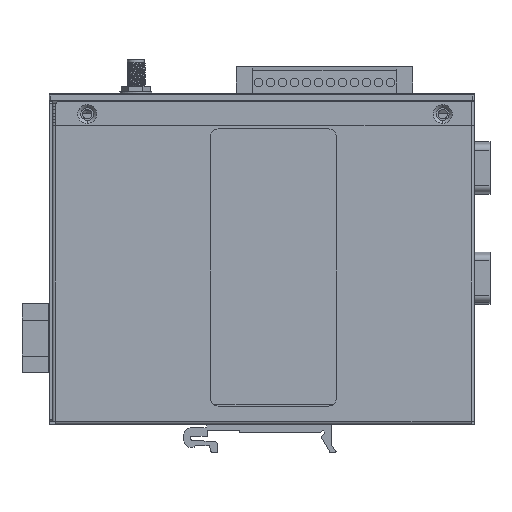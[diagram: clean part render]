
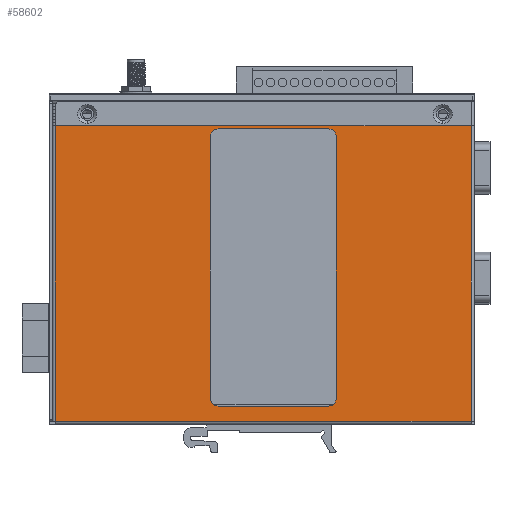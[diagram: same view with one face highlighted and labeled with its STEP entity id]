
A CAD part, front view. The second image highlights one B-rep face of the part: STEP entity #58602.
In plain terms, the highlighted planar face has unit normal (0, -1, 0).
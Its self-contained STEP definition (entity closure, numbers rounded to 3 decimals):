
#54850=DIRECTION('',(0.,0.,-1.));
#54851=VECTOR('',#54850,93.9);
#54852=CARTESIAN_POINT('',(-66.,-1.,42.45));
#54853=LINE('',#54852,#54851);
#54895=DIRECTION('',(-1.,0.,0.));
#54896=VECTOR('',#54895,131.9);
#54897=CARTESIAN_POINT('',(66.,-1.,42.45));
#54898=LINE('',#54897,#54896);
#55006=DIRECTION('',(0.,0.,1.));
#55007=VECTOR('',#55006,93.9);
#55008=CARTESIAN_POINT('',(66.,-1.,-51.45));
#55009=LINE('',#55008,#55007);
#55020=DIRECTION('',(1.,0.,0.));
#55021=VECTOR('',#55020,0.1);
#55022=CARTESIAN_POINT('',(-66.,-1.,42.45));
#55023=LINE('',#55022,#55021);
#55024=DIRECTION('',(0.,0.,-1.));
#55025=VECTOR('',#55024,83.);
#55026=CARTESIAN_POINT('',(23.18,-1.,38.9));
#55027=LINE('',#55026,#55025);
#55028=CARTESIAN_POINT('',(20.68,-1.,38.9));
#55029=DIRECTION('',(0.,-1.,0.));
#55030=DIRECTION('',(1.,0.,0.));
#55031=AXIS2_PLACEMENT_3D('',#55028,#55029,#55030);
#55033=DIRECTION('',(-1.,0.,0.));
#55034=VECTOR('',#55033,35.);
#55035=CARTESIAN_POINT('',(20.68,-1.,41.4));
#55036=LINE('',#55035,#55034);
#55037=CARTESIAN_POINT('',(-14.32,-1.,38.9));
#55038=DIRECTION('',(0.,-1.,0.));
#55039=DIRECTION('',(0.,0.,1.));
#55040=AXIS2_PLACEMENT_3D('',#55037,#55038,#55039);
#55042=DIRECTION('',(0.,0.,-1.));
#55043=VECTOR('',#55042,83.);
#55044=CARTESIAN_POINT('',(-16.82,-1.,38.9));
#55045=LINE('',#55044,#55043);
#55046=CARTESIAN_POINT('',(-14.32,-1.,-44.1));
#55047=DIRECTION('',(0.,-1.,0.));
#55048=DIRECTION('',(-1.,0.,0.));
#55049=AXIS2_PLACEMENT_3D('',#55046,#55047,#55048);
#55051=DIRECTION('',(-1.,0.,0.));
#55052=VECTOR('',#55051,35.);
#55053=CARTESIAN_POINT('',(20.68,-1.,-46.6));
#55054=LINE('',#55053,#55052);
#55055=CARTESIAN_POINT('',(20.68,-1.,-44.1));
#55056=DIRECTION('',(0.,-1.,0.));
#55057=DIRECTION('',(0.,0.,-1.));
#55058=AXIS2_PLACEMENT_3D('',#55055,#55056,#55057);
#55065=DIRECTION('',(1.,0.,0.));
#55066=VECTOR('',#55065,132.);
#55067=CARTESIAN_POINT('',(-66.,-1.,-51.45));
#55068=LINE('',#55067,#55066);
#55536=CARTESIAN_POINT('',(66.,-1.,-51.45));
#55537=VERTEX_POINT('',#55536);
#55538=CARTESIAN_POINT('',(66.,-1.,42.45));
#55539=VERTEX_POINT('',#55538);
#55545=CARTESIAN_POINT('',(-66.,-1.,42.45));
#55547=VERTEX_POINT('',#55545);
#55548=CARTESIAN_POINT('',(-66.,-1.,-51.45));
#55550=VERTEX_POINT('',#55548);
#55576=CARTESIAN_POINT('',(-65.9,-1.,42.45));
#55577=VERTEX_POINT('',#55576);
#55956=CARTESIAN_POINT('',(23.18,-1.,38.9));
#55957=CARTESIAN_POINT('',(23.18,-1.,-44.1));
#55958=VERTEX_POINT('',#55956);
#55959=VERTEX_POINT('',#55957);
#55960=CARTESIAN_POINT('',(20.68,-1.,41.4));
#55961=CARTESIAN_POINT('',(-14.32,-1.,41.4));
#55962=VERTEX_POINT('',#55960);
#55963=VERTEX_POINT('',#55961);
#55964=CARTESIAN_POINT('',(-16.82,-1.,38.9));
#55965=CARTESIAN_POINT('',(-16.82,-1.,-44.1));
#55966=VERTEX_POINT('',#55964);
#55967=VERTEX_POINT('',#55965);
#55968=CARTESIAN_POINT('',(-14.32,-1.,-46.6));
#55969=VERTEX_POINT('',#55968);
#55970=CARTESIAN_POINT('',(20.68,-1.,-46.6));
#55971=VERTEX_POINT('',#55970);
#58571=CARTESIAN_POINT('',(0.,-1.,0.));
#58572=DIRECTION('',(0.,1.,0.));
#58573=DIRECTION('',(1.,0.,0.));
#58574=AXIS2_PLACEMENT_3D('',#58571,#58572,#58573);
#58575=PLANE('',#58574);
#58576=ORIENTED_EDGE('',*,*,#58351,.F.);
#58577=ORIENTED_EDGE('',*,*,#58563,.F.);
#58579=ORIENTED_EDGE('',*,*,#58578,.F.);
#58580=ORIENTED_EDGE('',*,*,#58295,.F.);
#58581=ORIENTED_EDGE('',*,*,#58323,.T.);
#58582=EDGE_LOOP('',(#58576,#58577,#58579,#58580,#58581));
#58583=FACE_OUTER_BOUND('',#58582,.F.);
#58585=ORIENTED_EDGE('',*,*,#58584,.F.);
#58587=ORIENTED_EDGE('',*,*,#58586,.T.);
#58589=ORIENTED_EDGE('',*,*,#58588,.T.);
#58591=ORIENTED_EDGE('',*,*,#58590,.T.);
#58593=ORIENTED_EDGE('',*,*,#58592,.T.);
#58595=ORIENTED_EDGE('',*,*,#58594,.T.);
#58597=ORIENTED_EDGE('',*,*,#58596,.F.);
#58599=ORIENTED_EDGE('',*,*,#58598,.T.);
#58600=EDGE_LOOP('',(#58585,#58587,#58589,#58591,#58593,#58595,#58597,#58599));
#58601=FACE_BOUND('',#58600,.F.);
#58602=ADVANCED_FACE('',(#58583,#58601),#58575,.F.);
#55032=CIRCLE('',#55031,2.5);
#55041=CIRCLE('',#55040,2.5);
#55050=CIRCLE('',#55049,2.5);
#55059=CIRCLE('',#55058,2.5);
#58295=EDGE_CURVE('',#55547,#55550,#54853,.T.);
#58323=EDGE_CURVE('',#55547,#55577,#55023,.T.);
#58351=EDGE_CURVE('',#55539,#55577,#54898,.T.);
#58563=EDGE_CURVE('',#55537,#55539,#55009,.T.);
#58578=EDGE_CURVE('',#55550,#55537,#55068,.T.);
#58584=EDGE_CURVE('',#55958,#55959,#55027,.T.);
#58586=EDGE_CURVE('',#55958,#55962,#55032,.T.);
#58588=EDGE_CURVE('',#55962,#55963,#55036,.T.);
#58590=EDGE_CURVE('',#55963,#55966,#55041,.T.);
#58592=EDGE_CURVE('',#55966,#55967,#55045,.T.);
#58594=EDGE_CURVE('',#55967,#55969,#55050,.T.);
#58596=EDGE_CURVE('',#55971,#55969,#55054,.T.);
#58598=EDGE_CURVE('',#55971,#55959,#55059,.T.);
